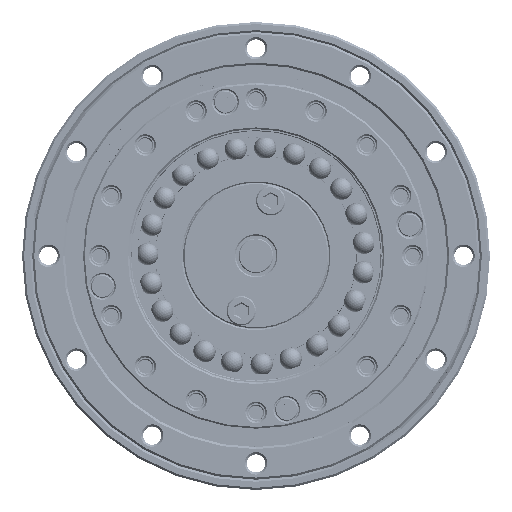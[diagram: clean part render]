
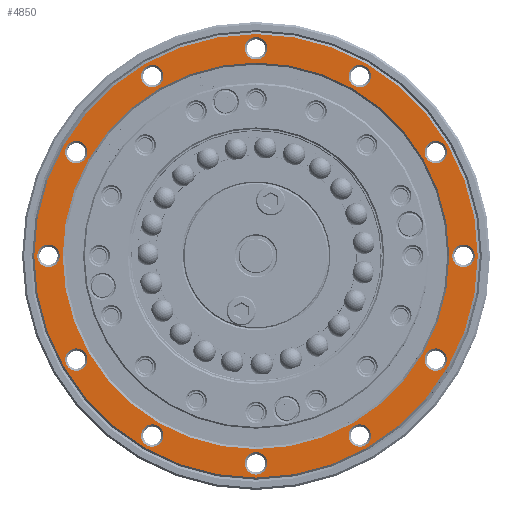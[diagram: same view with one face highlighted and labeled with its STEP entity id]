
A CAD part, top view. The second image highlights one B-rep face of the part: STEP entity #4850.
In plain terms, the highlighted planar face has unit normal (0, 0, 1).
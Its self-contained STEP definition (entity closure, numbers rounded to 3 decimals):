
#3182=FACE_BOUND('',#7960,.T.);
#3183=FACE_BOUND('',#7961,.T.);
#3184=FACE_BOUND('',#7962,.T.);
#3185=FACE_BOUND('',#7963,.T.);
#3186=FACE_BOUND('',#7964,.T.);
#3187=FACE_BOUND('',#7965,.T.);
#3188=FACE_BOUND('',#7966,.T.);
#3189=FACE_BOUND('',#7967,.T.);
#3190=FACE_BOUND('',#7968,.T.);
#3191=FACE_BOUND('',#7969,.T.);
#3192=FACE_BOUND('',#7970,.T.);
#3193=FACE_BOUND('',#7971,.T.);
#3194=FACE_BOUND('',#7972,.T.);
#3195=FACE_BOUND('',#7973,.T.);
#4850=ADVANCED_FACE('',(#3182,#3183,#3184,#3185,#3186,#3187,#3188,#3189,
#3190,#3191,#3192,#3193,#3194,#3195),#5414,.T.);
#5414=PLANE('',#23290);
#7960=EDGE_LOOP('',(#14845));
#7961=EDGE_LOOP('',(#14846));
#7962=EDGE_LOOP('',(#14847));
#7963=EDGE_LOOP('',(#14848));
#7964=EDGE_LOOP('',(#14849));
#7965=EDGE_LOOP('',(#14850));
#7966=EDGE_LOOP('',(#14851));
#7967=EDGE_LOOP('',(#14852));
#7968=EDGE_LOOP('',(#14853));
#7969=EDGE_LOOP('',(#14854));
#7970=EDGE_LOOP('',(#14855));
#7971=EDGE_LOOP('',(#14856));
#7972=EDGE_LOOP('',(#14857));
#7973=EDGE_LOOP('',(#14858));
#9830=CIRCLE('',#23276,2.75);
#9831=CIRCLE('',#23277,2.75);
#9832=CIRCLE('',#23278,2.75);
#9833=CIRCLE('',#23279,2.75);
#9834=CIRCLE('',#23280,2.75);
#9835=CIRCLE('',#23281,2.75);
#9836=CIRCLE('',#23282,2.75);
#9837=CIRCLE('',#23283,2.75);
#9838=CIRCLE('',#23284,2.75);
#9839=CIRCLE('',#23285,2.75);
#9840=CIRCLE('',#23286,2.75);
#9841=CIRCLE('',#23287,2.75);
#9842=CIRCLE('',#23288,54.5);
#9843=CIRCLE('',#23289,47.5);
#14845=ORIENTED_EDGE('',*,*,#19480,.T.);
#14846=ORIENTED_EDGE('',*,*,#19481,.T.);
#14847=ORIENTED_EDGE('',*,*,#19482,.T.);
#14848=ORIENTED_EDGE('',*,*,#19483,.T.);
#14849=ORIENTED_EDGE('',*,*,#19484,.T.);
#14850=ORIENTED_EDGE('',*,*,#19485,.T.);
#14851=ORIENTED_EDGE('',*,*,#19486,.T.);
#14852=ORIENTED_EDGE('',*,*,#19487,.T.);
#14853=ORIENTED_EDGE('',*,*,#19488,.T.);
#14854=ORIENTED_EDGE('',*,*,#19489,.T.);
#14855=ORIENTED_EDGE('',*,*,#19490,.T.);
#14856=ORIENTED_EDGE('',*,*,#19491,.T.);
#14857=ORIENTED_EDGE('',*,*,#19492,.T.);
#14858=ORIENTED_EDGE('',*,*,#19493,.T.);
#16903=VERTEX_POINT('',#202001);
#16904=VERTEX_POINT('',#202003);
#16905=VERTEX_POINT('',#202005);
#16906=VERTEX_POINT('',#202007);
#16907=VERTEX_POINT('',#202009);
#16908=VERTEX_POINT('',#202011);
#16909=VERTEX_POINT('',#202013);
#16910=VERTEX_POINT('',#202015);
#16911=VERTEX_POINT('',#202017);
#16912=VERTEX_POINT('',#202019);
#16913=VERTEX_POINT('',#202021);
#16914=VERTEX_POINT('',#202023);
#16915=VERTEX_POINT('',#202025);
#16916=VERTEX_POINT('',#202027);
#19480=EDGE_CURVE('',#16903,#16903,#9830,.T.);
#19481=EDGE_CURVE('',#16904,#16904,#9831,.T.);
#19482=EDGE_CURVE('',#16905,#16905,#9832,.T.);
#19483=EDGE_CURVE('',#16906,#16906,#9833,.T.);
#19484=EDGE_CURVE('',#16907,#16907,#9834,.T.);
#19485=EDGE_CURVE('',#16908,#16908,#9835,.T.);
#19486=EDGE_CURVE('',#16909,#16909,#9836,.T.);
#19487=EDGE_CURVE('',#16910,#16910,#9837,.T.);
#19488=EDGE_CURVE('',#16911,#16911,#9838,.T.);
#19489=EDGE_CURVE('',#16912,#16912,#9839,.T.);
#19490=EDGE_CURVE('',#16913,#16913,#9840,.T.);
#19491=EDGE_CURVE('',#16914,#16914,#9841,.T.);
#19492=EDGE_CURVE('',#16915,#16915,#9842,.T.);
#19493=EDGE_CURVE('',#16916,#16916,#9843,.T.);
#23276=AXIS2_PLACEMENT_3D('',#202000,#28178,#28179);
#23277=AXIS2_PLACEMENT_3D('',#202002,#28180,#28181);
#23278=AXIS2_PLACEMENT_3D('',#202004,#28182,#28183);
#23279=AXIS2_PLACEMENT_3D('',#202006,#28184,#28185);
#23280=AXIS2_PLACEMENT_3D('',#202008,#28186,#28187);
#23281=AXIS2_PLACEMENT_3D('',#202010,#28188,#28189);
#23282=AXIS2_PLACEMENT_3D('',#202012,#28190,#28191);
#23283=AXIS2_PLACEMENT_3D('',#202014,#28192,#28193);
#23284=AXIS2_PLACEMENT_3D('',#202016,#28194,#28195);
#23285=AXIS2_PLACEMENT_3D('',#202018,#28196,#28197);
#23286=AXIS2_PLACEMENT_3D('',#202020,#28198,#28199);
#23287=AXIS2_PLACEMENT_3D('',#202022,#28200,#28201);
#23288=AXIS2_PLACEMENT_3D('',#202024,#28202,#28203);
#23289=AXIS2_PLACEMENT_3D('',#202026,#28204,#28205);
#23290=AXIS2_PLACEMENT_3D('',#202028,#28206,#28207);
#28178=DIRECTION('',(0.,0.,-1.));
#28179=DIRECTION('',(1.,0.,0.));
#28180=DIRECTION('',(0.,0.,-1.));
#28181=DIRECTION('',(1.,0.,0.));
#28182=DIRECTION('',(0.,0.,-1.));
#28183=DIRECTION('',(1.,0.,0.));
#28184=DIRECTION('',(0.,0.,-1.));
#28185=DIRECTION('',(1.,0.,0.));
#28186=DIRECTION('',(0.,0.,-1.));
#28187=DIRECTION('',(1.,0.,0.));
#28188=DIRECTION('',(0.,0.,-1.));
#28189=DIRECTION('',(1.,0.,0.));
#28190=DIRECTION('',(0.,0.,-1.));
#28191=DIRECTION('',(1.,0.,0.));
#28192=DIRECTION('',(0.,0.,-1.));
#28193=DIRECTION('',(1.,0.,0.));
#28194=DIRECTION('',(0.,0.,-1.));
#28195=DIRECTION('',(1.,0.,0.));
#28196=DIRECTION('',(0.,0.,-1.));
#28197=DIRECTION('',(1.,0.,0.));
#28198=DIRECTION('',(0.,0.,-1.));
#28199=DIRECTION('',(1.,0.,0.));
#28200=DIRECTION('',(0.,0.,-1.));
#28201=DIRECTION('',(1.,0.,0.));
#28202=DIRECTION('',(0.,0.,1.));
#28203=DIRECTION('',(1.,0.,0.));
#28204=DIRECTION('',(0.,0.,-1.));
#28205=DIRECTION('',(1.,0.,0.));
#28206=DIRECTION('',(0.,0.,1.));
#28207=DIRECTION('',(-1.,0.,0.));
#202000=CARTESIAN_POINT('',(44.167,-25.5,18.7));
#202001=CARTESIAN_POINT('',(46.917,-25.5,18.7));
#202002=CARTESIAN_POINT('',(51.,0.,18.7));
#202003=CARTESIAN_POINT('',(53.75,0.,18.7));
#202004=CARTESIAN_POINT('',(25.5,-44.167,18.7));
#202005=CARTESIAN_POINT('',(28.25,-44.167,18.7));
#202006=CARTESIAN_POINT('',(0.,-51.,18.7));
#202007=CARTESIAN_POINT('',(2.75,-51.,18.7));
#202008=CARTESIAN_POINT('',(-25.5,-44.167,18.7));
#202009=CARTESIAN_POINT('',(-22.75,-44.167,18.7));
#202010=CARTESIAN_POINT('',(-44.167,-25.5,18.7));
#202011=CARTESIAN_POINT('',(-41.417,-25.5,18.7));
#202012=CARTESIAN_POINT('',(-51.,0.,18.7));
#202013=CARTESIAN_POINT('',(-48.25,0.,18.7));
#202014=CARTESIAN_POINT('',(44.167,25.5,18.7));
#202015=CARTESIAN_POINT('',(46.917,25.5,18.7));
#202016=CARTESIAN_POINT('',(25.5,44.167,18.7));
#202017=CARTESIAN_POINT('',(28.25,44.167,18.7));
#202018=CARTESIAN_POINT('',(-44.167,25.5,18.7));
#202019=CARTESIAN_POINT('',(-41.417,25.5,18.7));
#202020=CARTESIAN_POINT('',(-25.5,44.167,18.7));
#202021=CARTESIAN_POINT('',(-22.75,44.167,18.7));
#202022=CARTESIAN_POINT('',(0.,51.,18.7));
#202023=CARTESIAN_POINT('',(2.75,51.,18.7));
#202024=CARTESIAN_POINT('',(0.,0.,18.7));
#202025=CARTESIAN_POINT('',(54.5,0.,18.7));
#202026=CARTESIAN_POINT('',(0.,0.,18.7));
#202027=CARTESIAN_POINT('',(47.5,0.,18.7));
#202028=CARTESIAN_POINT('',(0.,0.,18.7));
